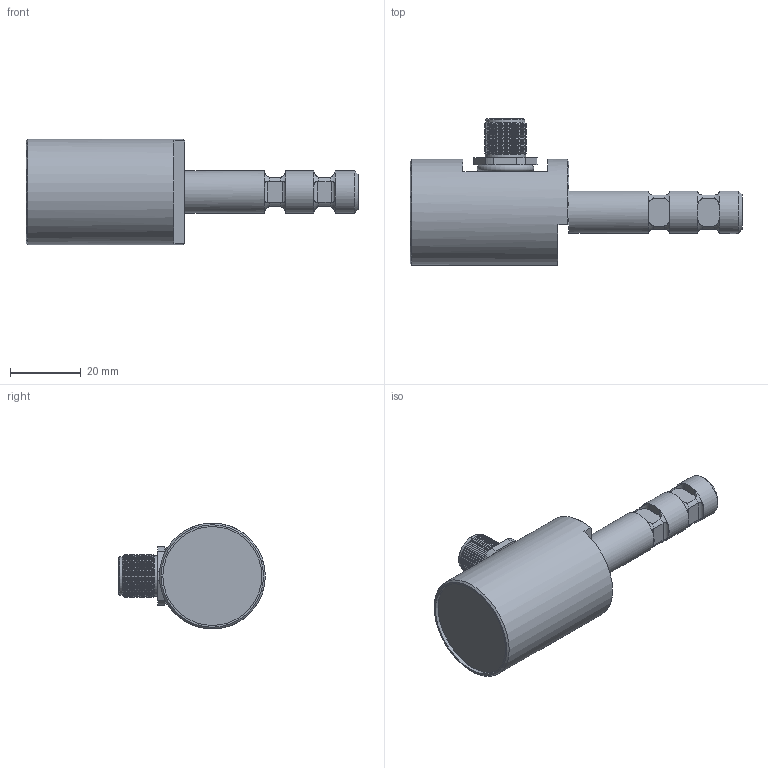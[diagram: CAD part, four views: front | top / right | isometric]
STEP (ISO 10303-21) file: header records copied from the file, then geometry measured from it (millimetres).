
FILE_DESCRIPTION(/* description */ ('Alibre Inc.'),/* implementation_level */ '2;1');
FILE_NAME(/* name */ 'export-F1FC43C8-633E-419C-BA9B-F6C2D9DDD609',/* time_stamp */ '2022-03-21T14:25:52+01:00',/* author */ (''),/* organization */ (''),/* preprocessor_version */ 'ST-DEVELOPER v17',/* originating_system */ 'Alibre',/* authorisation */ '');
FILE_SCHEMA (('CONFIG_CONTROL_DESIGN'));
Length unit declared in the file: centimetre
Bounding box: 94 x 41.5 x 30 mm (x, y, z)
Surface area: 161771.6 mm2
Topology: 7 solids, 8 shells, 268 faces, 600 edges, 356 vertices
Faces by surface type: cylinder 93, plane 85, cone 72, torus 18
Full cylindrical faces by diameter (mm): 0.5 x10, 8 x2, 10 x1, 11 x1, 11.5 x1, 12 x24, 13 x2, 14.5 x1, 28 x1, 30 x1
Entity records: 6985 total; most frequent: CARTESIAN_POINT 1959, ORIENTED_EDGE 988, DIRECTION 794, EDGE_CURVE 488, EDGE_LOOP 384, FACE_BOUND 384, AXIS2_PLACEMENT_3D 363, VERTEX_POINT 340
